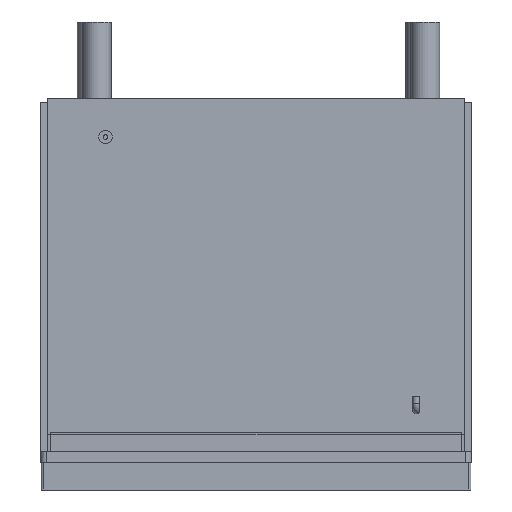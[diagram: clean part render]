
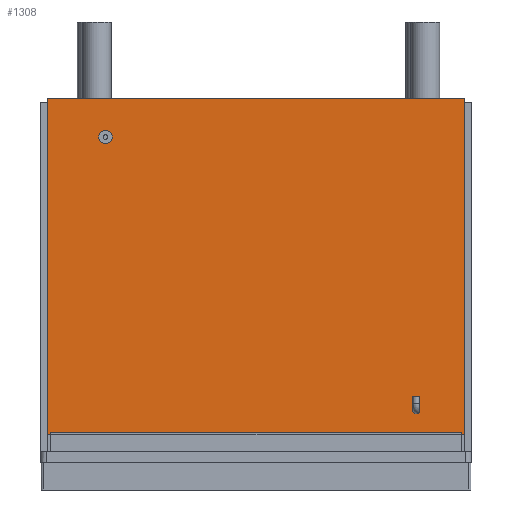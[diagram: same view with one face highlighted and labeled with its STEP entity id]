
A CAD part, left-side view. The second image highlights one B-rep face of the part: STEP entity #1308.
In plain terms, the highlighted planar face has unit normal (-1, 0, 0).
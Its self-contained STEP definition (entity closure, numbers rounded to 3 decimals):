
#614=PLANE('',#6308);
#1308=ADVANCED_FACE('',(#2476,#2477,#2478),#614,.F.);
#1777=LINE('',#9698,#2153);
#1780=LINE('',#9708,#2156);
#1781=LINE('',#9710,#2157);
#1782=LINE('',#9712,#2158);
#2153=VECTOR('',#7559,1.);
#2156=VECTOR('',#7568,1.);
#2157=VECTOR('',#7569,1.);
#2158=VECTOR('',#7570,1.);
#2476=FACE_BOUND('',#2891,.T.);
#2477=FACE_BOUND('',#2892,.T.);
#2478=FACE_BOUND('',#2893,.T.);
#2891=EDGE_LOOP('',(#3914));
#2892=EDGE_LOOP('',(#3915));
#2893=EDGE_LOOP('',(#3916,#3917,#3918,#3919));
#3914=ORIENTED_EDGE('',*,*,#5381,.T.);
#3915=ORIENTED_EDGE('',*,*,#5382,.F.);
#3916=ORIENTED_EDGE('',*,*,#5383,.T.);
#3917=ORIENTED_EDGE('',*,*,#5384,.F.);
#3918=ORIENTED_EDGE('',*,*,#5385,.F.);
#3919=ORIENTED_EDGE('',*,*,#5378,.T.);
#4769=VERTEX_POINT('',#9697);
#4770=VERTEX_POINT('',#9699);
#4772=VERTEX_POINT('',#9705);
#4773=VERTEX_POINT('',#9707);
#4774=VERTEX_POINT('',#9709);
#4775=VERTEX_POINT('',#9711);
#5378=EDGE_CURVE('',#4770,#4769,#1777,.T.);
#5381=EDGE_CURVE('',#4772,#4772,#5814,.T.);
#5382=EDGE_CURVE('',#4773,#4773,#5815,.T.);
#5383=EDGE_CURVE('',#4769,#4774,#1780,.T.);
#5384=EDGE_CURVE('',#4775,#4774,#1781,.T.);
#5385=EDGE_CURVE('',#4770,#4775,#1782,.T.);
#5814=CIRCLE('',#6306,7.);
#5815=CIRCLE('',#6307,14.);
#6306=AXIS2_PLACEMENT_3D('',#9704,#7564,#7565);
#6307=AXIS2_PLACEMENT_3D('',#9706,#7566,#7567);
#6308=AXIS2_PLACEMENT_3D('',#9713,#7571,#7572);
#7559=DIRECTION('',(0.,0.,1.));
#7564=DIRECTION('',(1.,0.,0.));
#7565=DIRECTION('',(0.,1.,0.));
#7566=DIRECTION('',(-1.,0.,0.));
#7567=DIRECTION('',(0.,1.,0.));
#7568=DIRECTION('',(0.,1.,0.));
#7569=DIRECTION('',(0.,0.,1.));
#7570=DIRECTION('',(0.,1.,0.));
#7571=DIRECTION('',(1.,0.,0.));
#7572=DIRECTION('',(0.,0.,-1.));
#9697=CARTESIAN_POINT('',(-531.,-883.,755.));
#9698=CARTESIAN_POINT('',(-531.,-883.,55.));
#9699=CARTESIAN_POINT('',(-531.,-883.,55.));
#9704=CARTESIAN_POINT('',(-531.,-783.,105.));
#9705=CARTESIAN_POINT('',(-531.,-776.,105.));
#9706=CARTESIAN_POINT('',(-531.,-135.,675.));
#9707=CARTESIAN_POINT('',(-531.,-121.,675.));
#9708=CARTESIAN_POINT('',(-531.,-883.,755.));
#9709=CARTESIAN_POINT('',(-531.,-15.,755.));
#9710=CARTESIAN_POINT('',(-531.,-15.,55.));
#9711=CARTESIAN_POINT('',(-531.,-15.,55.));
#9712=CARTESIAN_POINT('',(-531.,-883.,55.));
#9713=CARTESIAN_POINT('',(-531.,-883.,55.));
